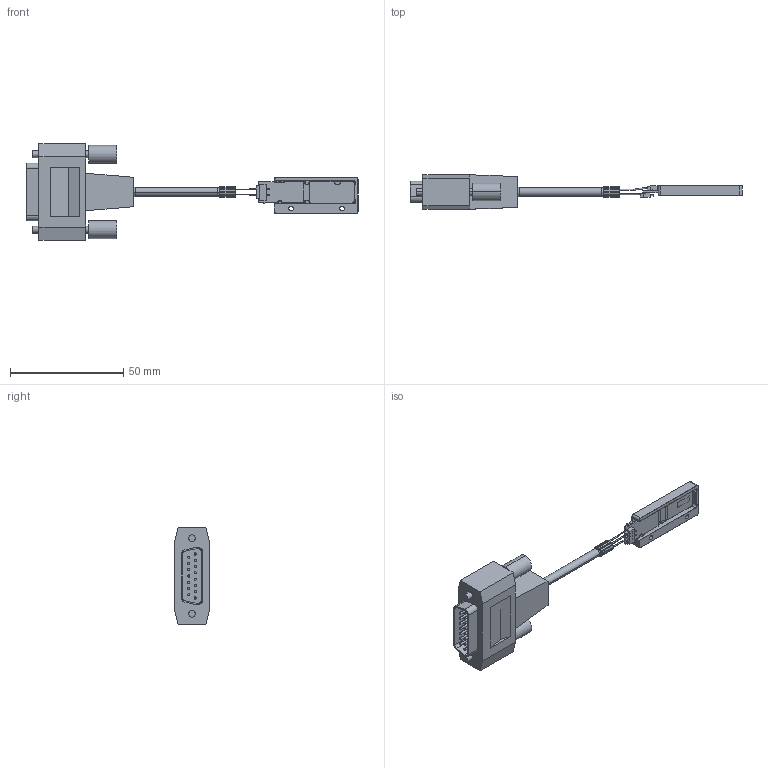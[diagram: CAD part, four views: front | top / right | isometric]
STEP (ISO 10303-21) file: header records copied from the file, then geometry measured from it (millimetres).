
FILE_DESCRIPTION((''),'2;1');
FILE_NAME('1235261-01-D01_ASM','2017-12-05T',('de8356'),(''),'PRO/ENGINEER BY PARAMETRIC TECHNOLOGY CORPORATION, 2014000','PRO/ENGINEER BY PARAMETRIC TECHNOLOGY CORPORATION, 2014000','');
FILE_SCHEMA(('CONFIG_CONTROL_DESIGN'));
Length unit declared in the file: millimetre
Products named in the file (19): 266317-02Z1; 369728-A9-A01; 203978-33-B01; 369728-A9-A01_ASM; 200787-A3-K01; 754073-04-K01_AF0; 814511-45-D01_AF0_ASM; 814511-55-D01_ASM; 1034522-10-K01_AF0; 619579-06-K01; 821952-15-D01_AF0_ASM; 821952-13-D01_ASM; 1127138-10-D01_ASM; 1117654-02-K01; 1127484-01-K01; 1127484-02-K01; 1117426-10-D01_ASM; 768348-04-K01; 1235261-01-D01_ASM
Assembly tree (20 placements, depth 6):
  1235261-01-D01_ASM
    266317-02Z1
    369728-A9-A01_ASM
      369728-A9-A01
      203978-33-B01
    200787-A3-K01
    1117426-10-D01_ASM
      1127138-10-D01_ASM
        814511-55-D01_ASM
          814511-45-D01_AF0_ASM
            754073-04-K01_AF0
        821952-13-D01_ASM
          1034522-10-K01_AF0
          821952-15-D01_AF0_ASM
            619579-06-K01  x2
      1117654-02-K01
      1127484-01-K01
      1127484-02-K01
    768348-04-K01  x2
Bounding box: 146.4 x 15.2 x 42.7 mm (x, y, z)
Volume: 20683.6 mm3; surface area: 11629.6 mm2
Topology: 13 solids, 13 shells, 893 faces, 2492 edges, 1612 vertices
Faces by surface type: plane 742, cylinder 143, cone 6, bspline 2
Entity records: 23113 total; most frequent: CARTESIAN_POINT 3733, ORIENTED_EDGE 3472, DIRECTION 3400, EDGE_CURVE 1736, VECTOR 1446, LINE 1446, VERTEX_POINT 1128, AXIS2_PLACEMENT_3D 977
